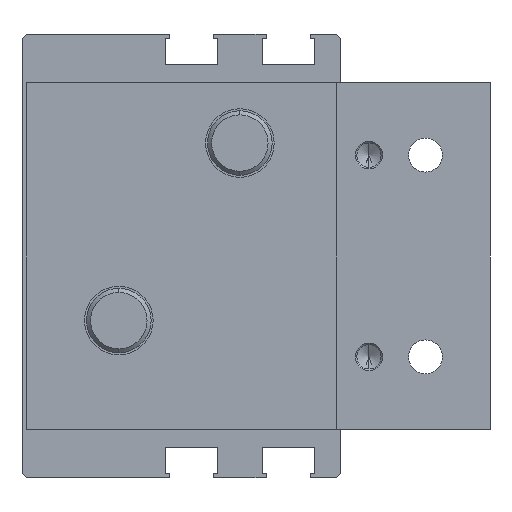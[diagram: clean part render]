
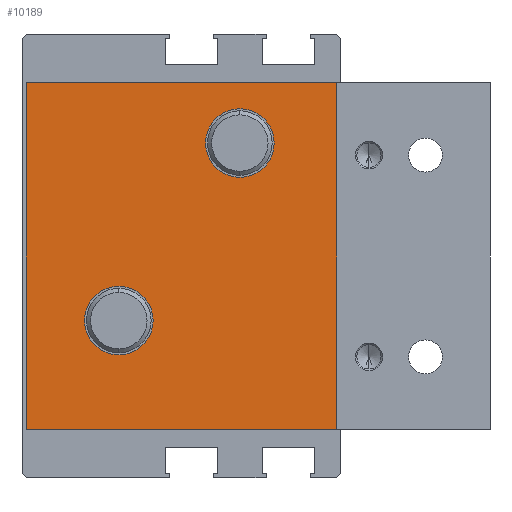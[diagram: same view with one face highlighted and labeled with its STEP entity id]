
A CAD part, left-side view. The second image highlights one B-rep face of the part: STEP entity #10189.
In plain terms, the highlighted planar face has unit normal (-1, 0, 0) as drawn and (1, 0, 0) by its records, which use the part's own axes.
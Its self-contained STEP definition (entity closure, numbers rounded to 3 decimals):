
#35 = EDGE_LOOP ( 'NONE', ( #36201, #6056 ) ) ;
#1253 = AXIS2_PLACEMENT_3D ( 'NONE', #45394, #38099, #30932 ) ;
#1986 = AXIS2_PLACEMENT_3D ( 'NONE', #8079, #33693, #11766 ) ;
#2803 = ORIENTED_EDGE ( 'NONE', *, *, #15191, .T. ) ;
#3327 = VECTOR ( 'NONE', #35758, 1000. ) ;
#3934 = CARTESIAN_POINT ( 'NONE',  ( 13., 31., -14. ) ) ;
#4771 = VERTEX_POINT ( 'NONE', #9803 ) ;
#4811 = CARTESIAN_POINT ( 'NONE',  ( 13., 46., 12.25 ) ) ;
#5447 = EDGE_LOOP ( 'NONE', ( #36934, #44955, #37307, #39381 ) ) ;
#5456 = CIRCLE ( 'NONE', #20342, 4.25 ) ;
#5671 = EDGE_CURVE ( 'NONE', #44326, #37463, #45961, .T. ) ;
#5793 = DIRECTION ( 'NONE',  ( -1., 0., 0. ) ) ;
#6056 = ORIENTED_EDGE ( 'NONE', *, *, #8345, .T. ) ;
#6293 = EDGE_CURVE ( 'NONE', #39692, #4771, #5456, .T. ) ;
#7176 = VECTOR ( 'NONE', #23522, 1000. ) ;
#7595 = DIRECTION ( 'NONE',  ( 0., 0., -1. ) ) ;
#8079 = CARTESIAN_POINT ( 'NONE',  ( 13., 31., -14. ) ) ;
#8345 = EDGE_CURVE ( 'NONE', #4771, #39692, #25919, .T. ) ;
#8685 = AXIS2_PLACEMENT_3D ( 'NONE', #27688, #5793, #31375 ) ;
#9803 = CARTESIAN_POINT ( 'NONE',  ( 13., 31., -9.75 ) ) ;
#10189 = ADVANCED_FACE ( 'NONE', ( #31562, #12132, #21869 ), #27244, .F. ) ;
#11766 = DIRECTION ( 'NONE',  ( 0., 0., -1. ) ) ;
#12132 = FACE_BOUND ( 'NONE', #24467, .T. ) ;
#15191 = EDGE_CURVE ( 'NONE', #45203, #40196, #18321, .T. ) ;
#15626 = CARTESIAN_POINT ( 'NONE',  ( 13., 57.5, 21.5 ) ) ;
#17558 = CARTESIAN_POINT ( 'NONE',  ( 13., 19., 21.5 ) ) ;
#17737 = DIRECTION ( 'NONE',  ( -1., 0., 0. ) ) ;
#18321 = CIRCLE ( 'NONE', #26728, 4.25 ) ;
#20342 = AXIS2_PLACEMENT_3D ( 'NONE', #3934, #29498, #7595 ) ;
#21869 = FACE_BOUND ( 'NONE', #35, .T. ) ;
#22575 = CARTESIAN_POINT ( 'NONE',  ( 13., 19., -21.5 ) ) ;
#22784 = LINE ( 'NONE', #32083, #3327 ) ;
#23403 = EDGE_CURVE ( 'NONE', #40196, #45203, #25648, .T. ) ;
#23522 = DIRECTION ( 'NONE',  ( 0., 1., 0. ) ) ;
#24034 = EDGE_CURVE ( 'NONE', #30119, #44326, #22784, .T. ) ;
#24467 = EDGE_LOOP ( 'NONE', ( #45259, #2803 ) ) ;
#25600 = VECTOR ( 'NONE', #44782, 1000. ) ;
#25648 = CIRCLE ( 'NONE', #8685, 4.25 ) ;
#25675 = CARTESIAN_POINT ( 'NONE',  ( 13., 31., -18.25 ) ) ;
#25919 = CIRCLE ( 'NONE', #1986, 4.25 ) ;
#26673 = DIRECTION ( 'NONE',  ( 0., 1., 0. ) ) ;
#26728 = AXIS2_PLACEMENT_3D ( 'NONE', #39557, #17737, #43196 ) ;
#27244 = PLANE ( 'NONE',  #1253 ) ;
#27688 = CARTESIAN_POINT ( 'NONE',  ( 13., 46., 8. ) ) ;
#29498 = DIRECTION ( 'NONE',  ( -1., 0., 0. ) ) ;
#30119 = VERTEX_POINT ( 'NONE', #22575 ) ;
#30215 = CARTESIAN_POINT ( 'NONE',  ( 13., 57.5, -21.5 ) ) ;
#30932 = DIRECTION ( 'NONE',  ( 0., 0., 1. ) ) ;
#31375 = DIRECTION ( 'NONE',  ( 0., 0., -1. ) ) ;
#31562 = FACE_OUTER_BOUND ( 'NONE', #5447, .T. ) ;
#32083 = CARTESIAN_POINT ( 'NONE',  ( 13., 19., 21.5 ) ) ;
#33693 = DIRECTION ( 'NONE',  ( -1., 0., 0. ) ) ;
#33921 = CARTESIAN_POINT ( 'NONE',  ( 13., 57.5, 21.5 ) ) ;
#34813 = VECTOR ( 'NONE', #26673, 1000. ) ;
#35386 = CARTESIAN_POINT ( 'NONE',  ( 13., 57.5, -21.5 ) ) ;
#35758 = DIRECTION ( 'NONE',  ( 0., 0., 1. ) ) ;
#36201 = ORIENTED_EDGE ( 'NONE', *, *, #6293, .T. ) ;
#36934 = ORIENTED_EDGE ( 'NONE', *, *, #41649, .T. ) ;
#37307 = ORIENTED_EDGE ( 'NONE', *, *, #24034, .F. ) ;
#37463 = VERTEX_POINT ( 'NONE', #44200 ) ;
#38099 = DIRECTION ( 'NONE',  ( -1., 0., 0. ) ) ;
#39381 = ORIENTED_EDGE ( 'NONE', *, *, #46883, .T. ) ;
#39557 = CARTESIAN_POINT ( 'NONE',  ( 13., 46., 8. ) ) ;
#39692 = VERTEX_POINT ( 'NONE', #25675 ) ;
#40196 = VERTEX_POINT ( 'NONE', #44222 ) ;
#41649 = EDGE_CURVE ( 'NONE', #43783, #37463, #42642, .T. ) ;
#42642 = LINE ( 'NONE', #15626, #25600 ) ;
#43196 = DIRECTION ( 'NONE',  ( 0., 0., -1. ) ) ;
#43783 = VERTEX_POINT ( 'NONE', #35386 ) ;
#44200 = CARTESIAN_POINT ( 'NONE',  ( 13., 57.5, 21.5 ) ) ;
#44222 = CARTESIAN_POINT ( 'NONE',  ( 13., 46., 3.75 ) ) ;
#44326 = VERTEX_POINT ( 'NONE', #17558 ) ;
#44425 = LINE ( 'NONE', #30215, #34813 ) ;
#44782 = DIRECTION ( 'NONE',  ( 0., 0., 1. ) ) ;
#44955 = ORIENTED_EDGE ( 'NONE', *, *, #5671, .F. ) ;
#45203 = VERTEX_POINT ( 'NONE', #4811 ) ;
#45259 = ORIENTED_EDGE ( 'NONE', *, *, #23403, .T. ) ;
#45394 = CARTESIAN_POINT ( 'NONE',  ( 13., 57.5, 21.5 ) ) ;
#45961 = LINE ( 'NONE', #33921, #7176 ) ;
#46883 = EDGE_CURVE ( 'NONE', #30119, #43783, #44425, .T. ) ;
